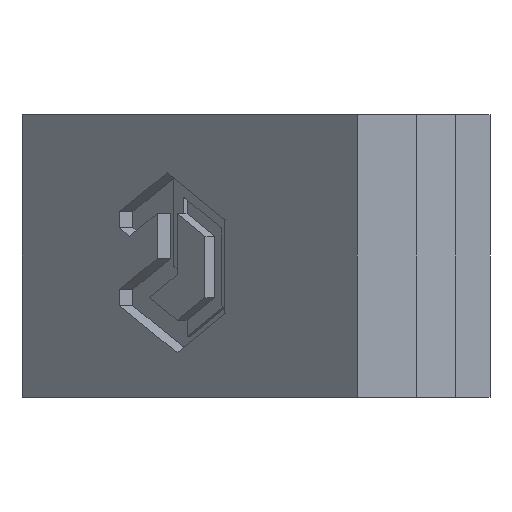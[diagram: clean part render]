
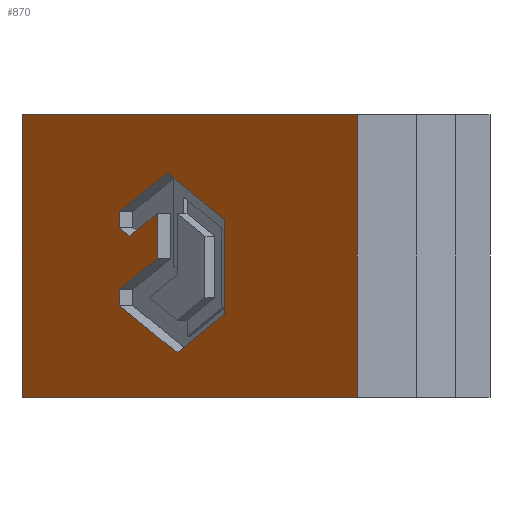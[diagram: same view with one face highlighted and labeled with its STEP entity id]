
A CAD part, front view. The second image highlights one B-rep face of the part: STEP entity #870.
In plain terms, the highlighted planar face has unit normal (-0.707, -0.707, 0).
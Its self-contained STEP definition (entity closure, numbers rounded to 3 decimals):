
#15=FACE_BOUND('',#102,.T.);
#56=FACE_OUTER_BOUND('',#101,.T.);
#101=EDGE_LOOP('',(#744,#745,#746,#747));
#102=EDGE_LOOP('',(#748,#749,#750,#751,#752,#753,#754,#755,#756,#757,#758));
#132=LINE('',#1207,#252);
#136=LINE('',#1214,#256);
#139=LINE('',#1220,#259);
#142=LINE('',#1226,#262);
#145=LINE('',#1232,#265);
#148=LINE('',#1238,#268);
#151=LINE('',#1244,#271);
#154=LINE('',#1250,#274);
#157=LINE('',#1256,#277);
#182=LINE('',#1306,#302);
#184=LINE('',#1309,#304);
#200=LINE('',#1343,#320);
#219=LINE('',#1380,#339);
#220=LINE('',#1383,#340);
#221=LINE('',#1384,#341);
#252=VECTOR('',#983,10.);
#256=VECTOR('',#989,10.);
#259=VECTOR('',#994,10.);
#262=VECTOR('',#999,10.);
#265=VECTOR('',#1004,10.);
#268=VECTOR('',#1009,10.);
#271=VECTOR('',#1014,10.);
#274=VECTOR('',#1019,10.);
#277=VECTOR('',#1024,10.);
#302=VECTOR('',#1073,10.);
#304=VECTOR('',#1077,10.);
#320=VECTOR('',#1101,10.);
#339=VECTOR('',#1134,10.);
#340=VECTOR('',#1137,10.);
#341=VECTOR('',#1138,10.);
#366=VERTEX_POINT('',#1205);
#367=VERTEX_POINT('',#1206);
#369=VERTEX_POINT('',#1213);
#371=VERTEX_POINT('',#1219);
#373=VERTEX_POINT('',#1225);
#375=VERTEX_POINT('',#1231);
#377=VERTEX_POINT('',#1237);
#379=VERTEX_POINT('',#1243);
#381=VERTEX_POINT('',#1249);
#383=VERTEX_POINT('',#1255);
#396=VERTEX_POINT('',#1305);
#409=VERTEX_POINT('',#1340);
#410=VERTEX_POINT('',#1342);
#421=VERTEX_POINT('',#1378);
#422=VERTEX_POINT('',#1382);
#450=EDGE_CURVE('',#366,#367,#132,.T.);
#454=EDGE_CURVE('',#369,#366,#136,.T.);
#457=EDGE_CURVE('',#371,#369,#139,.T.);
#460=EDGE_CURVE('',#373,#371,#142,.T.);
#463=EDGE_CURVE('',#375,#373,#145,.T.);
#466=EDGE_CURVE('',#377,#375,#148,.T.);
#469=EDGE_CURVE('',#379,#377,#151,.T.);
#472=EDGE_CURVE('',#381,#379,#154,.T.);
#475=EDGE_CURVE('',#383,#381,#157,.T.);
#500=EDGE_CURVE('',#367,#396,#182,.T.);
#502=EDGE_CURVE('',#396,#383,#184,.T.);
#518=EDGE_CURVE('',#410,#409,#200,.T.);
#537=EDGE_CURVE('',#409,#421,#219,.T.);
#538=EDGE_CURVE('',#422,#421,#220,.T.);
#539=EDGE_CURVE('',#410,#422,#221,.T.);
#744=ORIENTED_EDGE('',*,*,#518,.T.);
#745=ORIENTED_EDGE('',*,*,#537,.T.);
#746=ORIENTED_EDGE('',*,*,#538,.F.);
#747=ORIENTED_EDGE('',*,*,#539,.F.);
#748=ORIENTED_EDGE('',*,*,#450,.T.);
#749=ORIENTED_EDGE('',*,*,#500,.T.);
#750=ORIENTED_EDGE('',*,*,#502,.T.);
#751=ORIENTED_EDGE('',*,*,#475,.T.);
#752=ORIENTED_EDGE('',*,*,#472,.T.);
#753=ORIENTED_EDGE('',*,*,#469,.T.);
#754=ORIENTED_EDGE('',*,*,#466,.T.);
#755=ORIENTED_EDGE('',*,*,#463,.T.);
#756=ORIENTED_EDGE('',*,*,#460,.T.);
#757=ORIENTED_EDGE('',*,*,#457,.T.);
#758=ORIENTED_EDGE('',*,*,#454,.T.);
#825=PLANE('',#935);
#870=ADVANCED_FACE('',(#56,#15),#825,.T.);
#935=AXIS2_PLACEMENT_3D('',#1381,#1135,#1136);
#983=DIRECTION('',(0.612,-0.612,0.5));
#989=DIRECTION('',(0.,0.,1.));
#994=DIRECTION('',(-0.612,0.612,0.5));
#999=DIRECTION('',(-0.612,0.612,-0.5));
#1004=DIRECTION('',(0.,0.,1.));
#1009=DIRECTION('',(0.612,-0.612,0.5));
#1014=DIRECTION('',(0.,0.,1.));
#1019=DIRECTION('',(-0.612,0.612,0.5));
#1024=DIRECTION('',(-0.612,0.612,-0.5));
#1073=DIRECTION('',(0.612,-0.612,-0.5));
#1077=DIRECTION('',(0.,0.,-1.));
#1101=DIRECTION('',(0.707,-0.707,0.));
#1134=DIRECTION('',(0.,0.,1.));
#1135=DIRECTION('center_axis',(-0.707,-0.707,0.));
#1136=DIRECTION('ref_axis',(0.707,-0.707,0.));
#1137=DIRECTION('',(0.707,-0.707,0.));
#1138=DIRECTION('',(0.,0.,1.));
#1205=CARTESIAN_POINT('',(-14.627,0.255,19.716));
#1206=CARTESIAN_POINT('',(-9.564,-4.808,23.85));
#1207=CARTESIAN_POINT('',(-21.536,7.164,14.075));
#1213=CARTESIAN_POINT('',(-14.627,0.255,17.984));
#1214=CARTESIAN_POINT('',(-14.627,0.255,8.992));
#1219=CARTESIAN_POINT('',(-13.567,-0.805,17.118));
#1220=CARTESIAN_POINT('',(-15.235,0.862,18.48));
#1225=CARTESIAN_POINT('',(-10.625,-3.747,19.52));
#1226=CARTESIAN_POINT('',(-19.005,4.633,12.678));
#1231=CARTESIAN_POINT('',(-10.625,-3.747,14.716));
#1232=CARTESIAN_POINT('',(-10.625,-3.747,7.358));
#1237=CARTESIAN_POINT('',(-14.627,0.255,11.448));
#1238=CARTESIAN_POINT('',(-20.271,5.899,6.84));
#1243=CARTESIAN_POINT('',(-14.627,0.255,9.716));
#1244=CARTESIAN_POINT('',(-14.627,0.255,4.858));
#1249=CARTESIAN_POINT('',(-8.504,-5.869,4.716));
#1250=CARTESIAN_POINT('',(-13.969,-0.403,9.178));
#1255=CARTESIAN_POINT('',(-3.441,-10.932,8.85));
#1256=CARTESIAN_POINT('',(-12.881,-1.491,1.142));
#1305=CARTESIAN_POINT('',(-3.441,-10.932,18.85));
#1306=CARTESIAN_POINT('',(-11.702,-2.67,25.596));
#1309=CARTESIAN_POINT('',(-3.441,-10.932,9.425));
#1340=CARTESIAN_POINT('',(10.631,-25.003,0.));
#1342=CARTESIAN_POINT('',(-25.003,10.631,0.));
#1343=CARTESIAN_POINT('',(-25.003,10.631,0.));
#1378=CARTESIAN_POINT('',(10.631,-25.003,30.));
#1380=CARTESIAN_POINT('',(10.631,-25.003,0.));
#1381=CARTESIAN_POINT('Origin',(-25.003,10.631,0.));
#1382=CARTESIAN_POINT('',(-25.003,10.631,30.));
#1383=CARTESIAN_POINT('',(-25.003,10.631,30.));
#1384=CARTESIAN_POINT('',(-25.003,10.631,0.));
